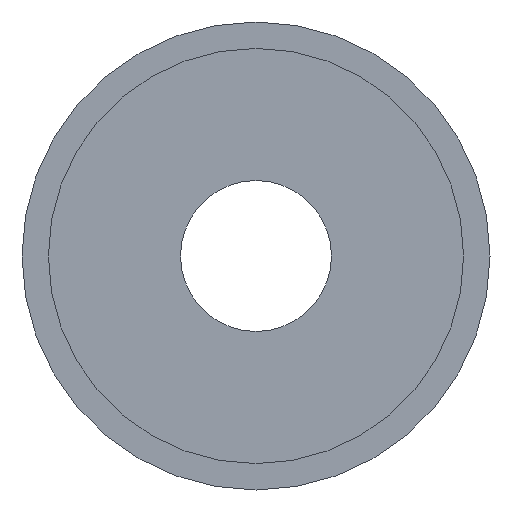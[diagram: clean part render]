
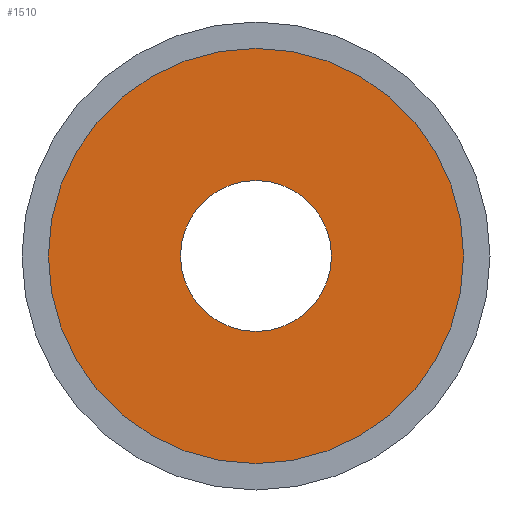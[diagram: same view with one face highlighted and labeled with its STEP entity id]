
A CAD part, front view. The second image highlights one B-rep face of the part: STEP entity #1510.
In plain terms, the highlighted planar face has unit normal (0, -1, 0).
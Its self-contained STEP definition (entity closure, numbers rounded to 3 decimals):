
#28 = DIRECTION ( 'NONE',  ( 0., 1., 0. ) ) ;
#50 = PLANE ( 'NONE',  #634 ) ;
#115 = CIRCLE ( 'NONE', #599, 10. ) ;
#246 = CIRCLE ( 'NONE', #762, 27.5 ) ;
#290 = FACE_BOUND ( 'NONE', #987, .T. ) ;
#381 = VERTEX_POINT ( 'NONE', #1422 ) ;
#405 = DIRECTION ( 'NONE',  ( 0., -1., 0. ) ) ;
#499 = VERTEX_POINT ( 'NONE', #1772 ) ;
#500 = CARTESIAN_POINT ( 'NONE',  ( 0., -15., 10. ) ) ;
#514 = DIRECTION ( 'NONE',  ( 0., 0., -1. ) ) ;
#549 = DIRECTION ( 'NONE',  ( 0., 0., -1. ) ) ;
#599 = AXIS2_PLACEMENT_3D ( 'NONE', #955, #806, #1272 ) ;
#634 = AXIS2_PLACEMENT_3D ( 'NONE', #500, #28, #1817 ) ;
#671 = CARTESIAN_POINT ( 'NONE',  ( 0., -15., 27.5 ) ) ;
#762 = AXIS2_PLACEMENT_3D ( 'NONE', #1511, #1820, #852 ) ;
#772 = CIRCLE ( 'NONE', #1045, 10. ) ;
#806 = DIRECTION ( 'NONE',  ( 0., -1., 0. ) ) ;
#852 = DIRECTION ( 'NONE',  ( 0., 0., -1. ) ) ;
#955 = CARTESIAN_POINT ( 'NONE',  ( 0., -15., 0. ) ) ;
#958 = AXIS2_PLACEMENT_3D ( 'NONE', #1352, #405, #549 ) ;
#971 = CARTESIAN_POINT ( 'NONE',  ( 0., -15., 0. ) ) ;
#987 = EDGE_LOOP ( 'NONE', ( #1301, #1230 ) ) ;
#1024 = ORIENTED_EDGE ( 'NONE', *, *, #1306, .T. ) ;
#1045 = AXIS2_PLACEMENT_3D ( 'NONE', #971, #1484, #514 ) ;
#1107 = VERTEX_POINT ( 'NONE', #671 ) ;
#1201 = ORIENTED_EDGE ( 'NONE', *, *, #1604, .T. ) ;
#1230 = ORIENTED_EDGE ( 'NONE', *, *, #2022, .F. ) ;
#1272 = DIRECTION ( 'NONE',  ( 0., 0., -1. ) ) ;
#1301 = ORIENTED_EDGE ( 'NONE', *, *, #1922, .F. ) ;
#1306 = EDGE_CURVE ( 'NONE', #499, #1107, #246, .T. ) ;
#1352 = CARTESIAN_POINT ( 'NONE',  ( 0., -15., 0. ) ) ;
#1422 = CARTESIAN_POINT ( 'NONE',  ( 0., -15., 10. ) ) ;
#1466 = CARTESIAN_POINT ( 'NONE',  ( 0., -15., -10. ) ) ;
#1484 = DIRECTION ( 'NONE',  ( 0., -1., 0. ) ) ;
#1510 = ADVANCED_FACE ( 'NONE', ( #290, #1991 ), #50, .F. ) ;
#1511 = CARTESIAN_POINT ( 'NONE',  ( 0., -15., 0. ) ) ;
#1604 = EDGE_CURVE ( 'NONE', #1107, #499, #1721, .T. ) ;
#1721 = CIRCLE ( 'NONE', #958, 27.5 ) ;
#1772 = CARTESIAN_POINT ( 'NONE',  ( 0., -15., -27.5 ) ) ;
#1817 = DIRECTION ( 'NONE',  ( 0., 0., 1. ) ) ;
#1820 = DIRECTION ( 'NONE',  ( 0., -1., 0. ) ) ;
#1922 = EDGE_CURVE ( 'NONE', #2029, #381, #115, .T. ) ;
#1991 = FACE_OUTER_BOUND ( 'NONE', #2034, .T. ) ;
#2022 = EDGE_CURVE ( 'NONE', #381, #2029, #772, .T. ) ;
#2029 = VERTEX_POINT ( 'NONE', #1466 ) ;
#2034 = EDGE_LOOP ( 'NONE', ( #1024, #1201 ) ) ;
